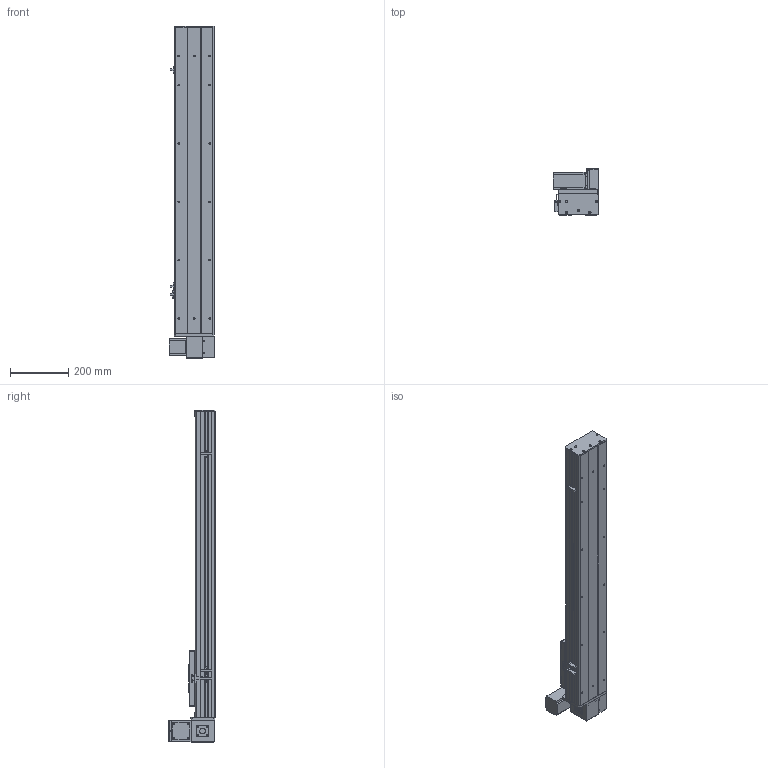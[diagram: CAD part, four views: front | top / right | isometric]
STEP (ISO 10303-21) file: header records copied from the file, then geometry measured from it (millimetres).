
FILE_DESCRIPTION (( 'STEP AP203' ), '1' );
FILE_NAME ('Y135CB-D90-S750-UL-P400W.STEP', '2020-02-18T07:14:57', ( '微软用户' ), ( '微软中国' ), 'SwSTEP 2.0', 'SolidWorks 2017', '' );
FILE_SCHEMA (( 'CONFIG_CONTROL_DESIGN' ));
Length unit declared in the file: millimetre
Products named in the file (18): 5C--俋欶; 0B-源倛裔啣; C-雄赽釱--; 0B-萇儂楊擘啣; Y10B-耜蚾蟀諉啣----; san松下电机400不带刹车----; 00B-俋欶BM--; 5CB --掛极耜裔啣-; Y10B--々湍喘謫眊--666; C-詩湍揤踡え-陔; Y135CB-耜裔; Y135CB-D90-S750-UL-P400W; 135CB--詩湍-CE; 135CB---遴掛极.-; Y100-135俋离換覜ん--; 35CB---喘謫眊楊擘啣; Y135C-陔俋离換覜結え-; 0B-埴倛裔啣
Assembly tree (21 placements, depth 2):
  Y135CB-D90-S750-UL-P400W
    Y135CB-耜裔
    135CB---遴掛极.-
    35CB---喘謫眊楊擘啣
    0B-埴倛裔啣
    0B-源倛裔啣
    0B-萇儂楊擘啣
    san松下电机400不带刹车----
    5CB --掛极耜裔啣-  x2
    C-詩湍揤踡え-陔  x2
    135CB--詩湍-CE
    Y100-135俋离換覜ん--  x3
    Y135C-陔俋离換覜結え-
    5C--俋欶
    C-雄赽釱--
    Y10B-耜蚾蟀諉啣----
    00B-俋欶BM--
    Y10B--々湍喘謫眊--666
Bounding box: 157 x 158.7 x 1138 mm (x, y, z)
Volume: 3737167.9 mm3; surface area: 1455615.3 mm2
Topology: 21 solids, 21 shells, 941 faces, 2509 edges, 1662 vertices
Faces by surface type: cylinder 469, plane 456, cone 16
Entity records: 29147 total; most frequent: DIRECTION 4841, CARTESIAN_POINT 4768, ORIENTED_EDGE 4494, EDGE_CURVE 2247, AXIS2_PLACEMENT_3D 1763, VERTEX_POINT 1490, LINE 1315, VECTOR 1315
